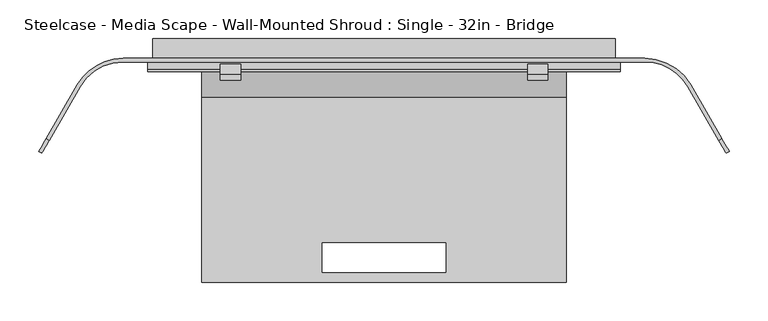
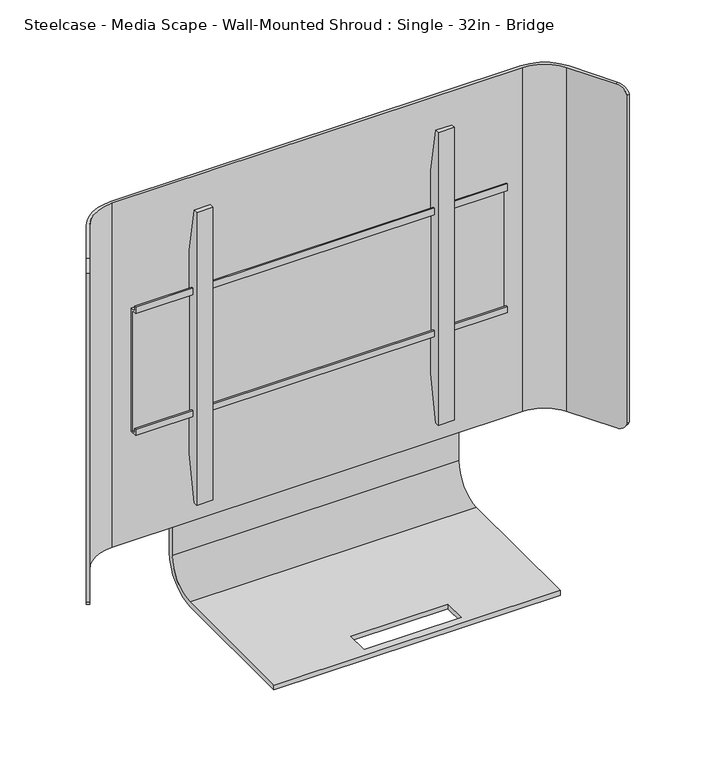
"""IFC4 building model written with IfcOpenShell, lengths in millimetres: furniture geometry, Steelcase - Media Scape - Wall-Mounted Shroud : Single - 32in - Bridge."""

from ifc_helpers import new_model, si_unit, frame, origin, place, context, project, spatial, polyline, circle_curve, outline, extrude, source, transform, mapped, element, save
from ifc_brep_helpers import plane_surface, cylinder_surface, revolved_surface, advanced_brep


def steelcase_media_scape_wall_mounted_shroud_single_32in_bridge_9d07bd64(model_context):
    return source(origin(), model_context, "Body", "SolidModel", [
        advanced_brep(
        [(234.9499879, -25.4, 783.5646188), (234.9499879, -75.8697585, 733.0948603), (234.9499879, -314.3253876, 733.0948603), (234.9499879, -314.3253876, 725.1446188), (234.9499879, -75.8696132, 725.1446188), (234.9499879, -17.4496132, 783.5646188), (234.9499879, -17.4496132, 1037.8947876), (234.9499879, -25.4, 1037.8947876), (-234.9499879, -25.4, 783.5646188), (-234.9499879, -25.4, 1037.8947876), (-234.9499879, -17.4496132, 1037.8947876), (-234.9499879, -17.4496132, 783.5646188), (-234.9499879, -75.8696132, 725.1446188), (-234.9499879, -314.3253876, 725.1446188), (-234.9499879, -314.3253876, 733.0948603), (-234.9499879, -75.8697585, 733.0948603), (-79.502, -263.5253876, 733.0948603), (79.502, -263.5253876, 733.0948603), (79.502, -301.6253876, 733.0948603), (-79.502, -301.6253876, 733.0948603), (79.502, -263.5253876, 725.1446188), (-79.502, -263.5253876, 725.1446188), (-79.502, -301.6253876, 725.1446188), (79.502, -301.6253876, 725.1446188)],
        [
            (0, 1, circle_curve(frame((234.9499879, -75.8697585, 783.5646188), z_axis=(-1.0, 0.0, 0.0), x_axis=(0.0, 1.0, 0.0)), 50.4697585)),
            (1, 2),
            (2, 3),
            (3, 4),
            (4, 5, circle_curve(frame((234.9499879, -75.8696132, 783.5646188), z_axis=(1.0, 0.0, 0.0), x_axis=(0.0, 1.0, 0.0)), 58.42)),
            (5, 6),
            (6, 7),
            (7, 0),
            (8, 9),
            (9, 10),
            (10, 11),
            (11, 12, circle_curve(frame((-234.9499879, -75.8696132, 783.5646188), z_axis=(-1.0, 0.0, 0.0), x_axis=(0.0, 1.0, 0.0)), 58.42)),
            (12, 13),
            (13, 14),
            (14, 15),
            (15, 8, circle_curve(frame((-234.9499879, -75.8697585, 783.5646188), z_axis=(1.0, 0.0, 0.0), x_axis=(0.0, 1.0, 0.0)), 50.4697585)),
            (1, 15),
            (14, 2),
            (16, 17),
            (17, 18),
            (18, 19),
            (19, 16),
            (13, 3),
            (12, 4),
            (20, 21),
            (21, 22),
            (22, 23),
            (23, 20),
            (5, 11),
            (10, 6),
            (9, 7),
            (8, 0),
            (20, 17),
            (16, 21),
            (19, 22),
            (18, 23),
        ],
        [
            plane_surface(frame((234.9499879, -25.4, 783.5646188), z_axis=(1.0, 0.0, 0.0), x_axis=(0.0, 0.0, -1.0))),
            plane_surface(frame((-234.9499879, -25.4, 783.5646188), z_axis=(-1.0, 0.0, 0.0), x_axis=(0.0, 0.0, 1.0))),
            plane_surface(frame((234.9499879, -75.8697585, 733.0948603), z_axis=(0.0, 0.0, 1.0), x_axis=(-1.0, 0.0, 0.0))),
            plane_surface(frame((234.9499879, -314.3253876, 733.0948603), z_axis=(0.0, -1.0, 0.0), x_axis=(-1.0, 0.0, 0.0))),
            plane_surface(frame((234.9499879, -314.3253876, 725.1446188), z_axis=(0.0, 0.0, -1.0), x_axis=(-1.0, 0.0, 0.0))),
            plane_surface(frame((234.9499879, -17.4496132, 783.5646188), z_axis=(0.0, 1.0, 0.0), x_axis=(-1.0, 0.0, 0.0))),
            plane_surface(frame((234.9499879, -17.4496132, 1037.8947876), z_axis=(0.0, 0.0, 1.0), x_axis=(-1.0, 0.0, 0.0))),
            plane_surface(frame((234.9499879, -25.4, 1037.8947876), z_axis=(0.0, -1.0, 0.0), x_axis=(-1.0, 0.0, 0.0))),
            revolved_surface(polyline([(-234.9499879, -25.400000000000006, 783.5646188), (234.9499879, -25.400000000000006, 783.5646188)]), (-234.9499879, -75.8697585, 783.5646188), (-1.0, 0.0, 0.0)),
            cylinder_surface(frame((-234.9499879, -75.8696132, 783.5646188), z_axis=(1.0, 0.0, 0.0), x_axis=(0.0, 1.0, 0.0)), 58.42),
            plane_surface(frame((79.502, -263.5253876, 1824.7300588), z_axis=(0.0, -1.0, 0.0), x_axis=(0.0, 0.0, -1.0))),
            plane_surface(frame((-79.502, -263.5253876, 1824.7300588), z_axis=(1.0, 0.0, 0.0), x_axis=(0.0, 0.0, -1.0))),
            plane_surface(frame((-79.502, -301.6253876, 1824.7300588), z_axis=(0.0, 1.0, 0.0), x_axis=(0.0, 0.0, -1.0))),
            plane_surface(frame((79.502, -301.6253876, 1824.7300588), z_axis=(-1.0, 0.0, 0.0), x_axis=(0.0, 0.0, -1.0))),
        ],
        [
            (0, [[1, 2, 3, 4, 5, 6, 7, 8]]),
            (1, [[9, 10, 11, 12, 13, 14, 15, 16]]),
            (2, [[-2, 17, -15, 18], [19, 20, 21, 22]]),
            (3, [[-3, -18, -14, 23]]),
            (4, [[-4, -23, -13, 24], [25, 26, 27, 28]]),
            (5, [[-6, 29, -11, 30]]),
            (6, [[-7, -30, -10, 31]]),
            (7, [[-8, -31, -9, 32]]),
            (8, [[-1, -32, -16, -17]]),
            (9, [[-5, -24, -12, -29]]),
            (10, [[33, -19, 34, -25]]),
            (11, [[-34, -22, 35, -26]]),
            (12, [[-35, -21, 36, -27]]),
            (13, [[-33, -28, -36, -20]]),
        ],
    ),
        extrude(outline(polyline([(-42.4942785, 1237.6504726), (-42.4942785, 1249.6645649), (-39.8272175, 1249.6645649), (-39.8272175, 1240.317461), (-29.9720009, 1240.317461), (-29.9720009, 1025.9922438), (-42.3164551, 1025.9922438), (-42.3164551, 1036.9142515), (-39.649394, 1036.9142515), (-39.649394, 1028.657052), (-32.6531824, 1028.657052), (-32.6531824, 1237.6504726), (-42.4942785, 1237.6504726)])), frame((-304.8, 0.0, 0.0), z_axis=(1.0, 0.0, 0.0), x_axis=(0.0, 1.0, 0.0)), (0.0, 0.0, 1.0), 609.6),
        extrude(outline(polyline([(-32.6531824, 1308.5971148), (-32.6531824, 956.7825607), (-46.5049349, 879.1546949), (-53.3399828, 879.1546949), (-53.3399828, 1387.1547192), (-46.5050076, 1387.1547192), (-32.6531824, 1308.5971148)])), frame((185.0392868, 0.0, 0.0), z_axis=(1.0, 0.0, 0.0), x_axis=(0.0, 1.0, 0.0)), (0.0, 0.0, 1.0), 26.1592872),
        extrude(outline(polyline([(-32.6531824, 1308.5971148), (-32.6531824, 956.7825607), (-46.5049349, 879.1546949), (-53.3399828, 879.1546949), (-53.3399828, 1387.1547192), (-46.5050076, 1387.1547192), (-32.6531824, 1308.5971148)])), frame((-211.198574, 0.0, 0.0), z_axis=(1.0, 0.0, 0.0), x_axis=(0.0, 1.0, 0.0)), (0.0, 0.0, 1.0), 26.1592872),
        advanced_brep(
        [(-391.5426135, -61.722, 1432.814), (-336.550002, -29.9720009, 1432.814), (336.55, -29.9720009, 1432.814), (391.5426135, -61.722, 1432.814), (431.663586, -131.2135628, 1432.814), (435.6230541, -128.9275628, 1432.814), (395.5020817, -59.436, 1432.814), (336.550002, -25.4, 1432.814), (-336.55, -25.4, 1432.814), (-395.5020817, -59.436, 1432.814), (-435.6261659, -128.9329524, 1432.814), (-431.6666977, -131.2189524, 1432.814), (-395.5020817, -59.436, 835.914), (-336.550002, -25.4, 835.914), (336.55, -25.4, 835.914), (395.5020817, -59.436, 835.914), (435.6746629, -129.0169518, 835.914), (431.7151948, -131.3029518, 835.914), (391.5426135, -61.722, 835.914), (336.550002, -29.9720009, 835.914), (-336.55, -29.9720009, 835.914), (-391.5426135, -61.722, 835.914), (-431.7294014, -131.3275584, 835.914), (-435.6888695, -129.0415584, 835.914), (-445.1930632, -145.5033047, 849.5242766), (-445.1930632, -145.5033047, 1418.8227735), (-441.2335951, -147.7893047, 1418.8227735), (-441.2335951, -147.7893047, 849.5242766), (441.2110866, -147.7503189, 849.4756893), (441.2110866, -147.7503189, 1418.9433849), (445.1705547, -145.4643189, 1418.9433849), (445.1705547, -145.4643189, 849.4756893)],
        [
            (0, 1, circle_curve(frame((-336.550002, -93.4719991, 1432.814), z_axis=(0.0, 0.0, -1.0), x_axis=(0.0, 1.0, 0.0)), 63.4999981)),
            (1, 2),
            (2, 3, circle_curve(frame((336.550002, -93.4719991, 1432.814), z_axis=(0.0, 0.0, -1.0), x_axis=(0.0, 1.0, 0.0)), 63.4999981)),
            (3, 4),
            (4, 5),
            (5, 6),
            (6, 7, circle_curve(frame((336.5500004, -93.472, 1432.814), z_axis=(0.0, 0.0, 1.0), x_axis=(0.0, 1.0, 0.0)), 68.072)),
            (7, 8),
            (8, 9, circle_curve(frame((-336.5500004, -93.472, 1432.814), z_axis=(0.0, 0.0, 1.0), x_axis=(0.0, 1.0, 0.0)), 68.072)),
            (9, 10),
            (10, 11),
            (11, 0),
            (12, 13, circle_curve(frame((-336.5500004, -93.472, 835.914), z_axis=(0.0, 0.0, -1.0), x_axis=(0.0, 1.0, 0.0)), 68.072)),
            (13, 14),
            (14, 15, circle_curve(frame((336.5500004, -93.472, 835.914), z_axis=(0.0, 0.0, -1.0), x_axis=(0.0, 1.0, 0.0)), 68.072)),
            (15, 16),
            (16, 17),
            (17, 18),
            (18, 19, circle_curve(frame((336.550002, -93.4719991, 835.914), z_axis=(0.0, 0.0, 1.0), x_axis=(0.0, 1.0, 0.0)), 63.4999981)),
            (19, 20),
            (20, 21, circle_curve(frame((-336.550002, -93.4719991, 835.914), z_axis=(0.0, 0.0, 1.0), x_axis=(0.0, 1.0, 0.0)), 63.4999981)),
            (21, 22),
            (22, 23),
            (23, 12),
            (0, 21),
            (20, 1),
            (8, 13),
            (12, 9),
            (23, 24, circle_curve(frame((-435.6888695, -129.0415584, 855.9928872), z_axis=(-0.866025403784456, 0.4999999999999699, 0.0), x_axis=(-0.4999999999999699, -0.866025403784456, 0.0)), 20.0788872)),
            (24, 25),
            (25, 10, circle_curve(frame((-435.6261659, -128.9329524, 1412.7351128), z_axis=(-0.8660254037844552, 0.4999999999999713, 0.0), x_axis=(-0.4999999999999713, -0.8660254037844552, 0.0)), 20.0788872)),
            (26, 25),
            (24, 27),
            (27, 26),
            (11, 26, circle_curve(frame((-431.6666977, -131.2189524, 1412.7351128), z_axis=(0.8660254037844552, -0.4999999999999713, 0.0), x_axis=(-0.4999999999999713, -0.8660254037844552, 0.0)), 20.0788872)),
            (27, 22, circle_curve(frame((-431.7294014, -131.3275584, 855.9928872), z_axis=(0.866025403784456, -0.4999999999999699, 0.0), x_axis=(-0.4999999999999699, -0.866025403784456, 0.0)), 20.0788872)),
            (7, 14),
            (19, 2),
            (3, 18),
            (17, 28, circle_curve(frame((431.7151948, -131.3029518, 855.9928872), z_axis=(-0.8660254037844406, -0.4999999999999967, 0.0), x_axis=(0.4999999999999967, -0.8660254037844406, 0.0)), 20.0788872)),
            (28, 29),
            (29, 4, circle_curve(frame((431.663586, -131.2135628, 1412.7351128), z_axis=(-0.8660254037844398, -0.49999999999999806, 0.0), x_axis=(0.49999999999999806, -0.8660254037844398, 0.0)), 20.0788872)),
            (30, 29),
            (28, 31),
            (31, 30),
            (15, 6),
            (5, 30, circle_curve(frame((435.6230541, -128.9275628, 1412.7351128), z_axis=(0.8660254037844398, 0.49999999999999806, 0.0), x_axis=(0.49999999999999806, -0.8660254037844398, 0.0)), 20.0788872)),
            (31, 16, circle_curve(frame((435.6746629, -129.0169518, 855.9928872), z_axis=(0.8660254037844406, 0.4999999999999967, 0.0), x_axis=(0.4999999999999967, -0.8660254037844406, 0.0)), 20.0788872)),
        ],
        [
            plane_surface(frame((-336.550002, -29.9720009, 1432.814), z_axis=(0.0, 0.0, 1.0), x_axis=(1.0, 0.0, 0.0))),
            plane_surface(frame((-336.550002, -29.9720009, 835.914), z_axis=(0.0, 0.0, -1.0), x_axis=(-1.0, 0.0, 0.0))),
            revolved_surface(polyline([(-336.550002, -29.972001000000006, 835.914), (-336.550002, -29.972001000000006, 1432.814)]), (-336.550002, -93.4719991, 835.914), (0.0, 0.0, -1.0)),
            cylinder_surface(frame((-336.5500004, -93.472, 835.914), z_axis=(0.0, 0.0, 1.0), x_axis=(0.0, 1.0, 0.0)), 68.072),
            plane_surface(frame((-395.5020817, -59.436, 1432.814), z_axis=(-0.866025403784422, 0.5000000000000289, 0.0), x_axis=(0.0, 0.0, -1.0))),
            plane_surface(frame((-445.1930632, -145.5033047, 1432.814), z_axis=(-0.5000000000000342, -0.866025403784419, 0.0), x_axis=(0.0, 0.0, -1.0))),
            plane_surface(frame((-441.2335951, -147.7893047, 1432.814), z_axis=(0.8660254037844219, -0.500000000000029, 0.0), x_axis=(0.0, 0.0, -1.0))),
            plane_surface(frame((336.55, -25.4, 1432.814), z_axis=(0.0, 1.0, 0.0), x_axis=(0.0, 0.0, -1.0))),
            plane_surface(frame((-336.55, -29.9720009, 1432.814), z_axis=(0.0, -1.0, 0.0), x_axis=(0.0, 0.0, -1.0))),
            plane_surface(frame((391.5426135, -61.722, 1432.814), z_axis=(-0.8660254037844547, -0.4999999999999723, 0.0), x_axis=(0.0, 0.0, -1.0))),
            plane_surface(frame((441.2110866, -147.7503189, 1432.814), z_axis=(0.4999999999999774, -0.8660254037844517, 0.0), x_axis=(0.0, 0.0, -1.0))),
            plane_surface(frame((445.1705547, -145.4643189, 1432.814), z_axis=(0.8660254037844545, 0.49999999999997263, 0.0), x_axis=(0.0, 0.0, -1.0))),
            cylinder_surface(frame((336.5500004, -93.472, 835.914), z_axis=(0.0, 0.0, 1.0), x_axis=(0.0, 1.0, 0.0)), 68.072),
            revolved_surface(polyline([(336.550002, -29.972001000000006, 835.914), (336.550002, -29.972001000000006, 1432.814)]), (336.550002, -93.4719991, 835.914), (0.0, 0.0, -1.0)),
            cylinder_surface(frame((-431.6666977, -131.2189524, 1412.7351128), z_axis=(0.8660254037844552, -0.4999999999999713, 0.0), x_axis=(-0.4999999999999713, -0.8660254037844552, 0.0)), 20.0788872),
            cylinder_surface(frame((-431.7294014, -131.3275584, 855.9928872), z_axis=(0.866025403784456, -0.4999999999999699, 0.0), x_axis=(-0.4999999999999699, -0.866025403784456, 0.0)), 20.0788872),
            cylinder_surface(frame((446.7704297, -122.4916225, 1412.7351128), z_axis=(0.8660254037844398, 0.49999999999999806, 0.0), x_axis=(0.49999999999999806, -0.8660254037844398, 0.0)), 20.0788872),
            cylinder_surface(frame((443.9629695, -124.2316958, 855.9928872), z_axis=(0.8660254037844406, 0.4999999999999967, 0.0), x_axis=(0.4999999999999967, -0.8660254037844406, 0.0)), 20.0788872),
        ],
        [
            (0, [[1, 2, 3, 4, 5, 6, 7, 8, 9, 10, 11, 12]]),
            (1, [[13, 14, 15, 16, 17, 18, 19, 20, 21, 22, 23, 24]]),
            (2, [[-1, 25, -21, 26]]),
            (3, [[-9, 27, -13, 28]]),
            (4, [[-28, -24, 29, 30, 31, -10]]),
            (5, [[32, -30, 33, 34]]),
            (6, [[-25, -12, 35, -34, 36, -22]]),
            (7, [[-8, 37, -14, -27]]),
            (8, [[-2, -26, -20, 38]]),
            (9, [[39, -18, 40, 41, 42, -4]]),
            (10, [[43, -41, 44, 45]]),
            (11, [[46, -6, 47, -45, 48, -16]]),
            (12, [[-7, -46, -15, -37]]),
            (13, [[-3, -38, -19, -39]]),
            (14, [[-11, -31, -32, -35]]),
            (15, [[-23, -36, -33, -29]]),
            (16, [[-5, -42, -43, -47]]),
            (17, [[-17, -48, -44, -40]]),
        ],
    ),
        extrude(outline(polyline([(912.1648167, 234.9499879), (912.1648167, 298.45), (1356.614, 298.45), (1356.614, -298.45), (912.1648167, -298.45), (912.1648167, -235.9433465), (1293.1139516, -235.9433465), (1293.1139516, 234.9499879), (912.1648167, 234.9499879)])), frame((0.0, -25.4, 0.0), z_axis=(0.0, 1.0, 0.0), x_axis=(0.0, 0.0, 1.0)), (0.0, 0.0, 1.0), 25.4),
    ])


if __name__ == "__main__":
    model = new_model("IFC4")
    model_context = context("Model", 3, world=origin())
    ifc_project = project(units=[si_unit("LENGTHUNIT", "METRE", prefix="MILLI")], contexts=[model_context])
    site = spatial("IfcSite", under=ifc_project)
    building = spatial("IfcBuilding", under=site)
    placement = place(None, origin())
    steelcase_media_scape_wall_mounted_shroud_single_32in_bridge_shape = steelcase_media_scape_wall_mounted_shroud_single_32in_bridge_9d07bd64(model_context)
    element("IfcFurniture", 1, ObjectType="Steelcase - Media Scape - Wall-Mounted Shroud : Single - 32in - Bridge", at=placement, inside=building, context=model_context, shape_type="MappedRepresentation", body=[
        mapped(steelcase_media_scape_wall_mounted_shroud_single_32in_bridge_shape, transform((0.0, 0.0, 0.0), x_axis=(1.0, 0.0, 0.0), y_axis=(0.0, 1.0, 0.0), z_axis=(0.0, 0.0, 1.0))),
    ])
    save(model, "model.ifc")
